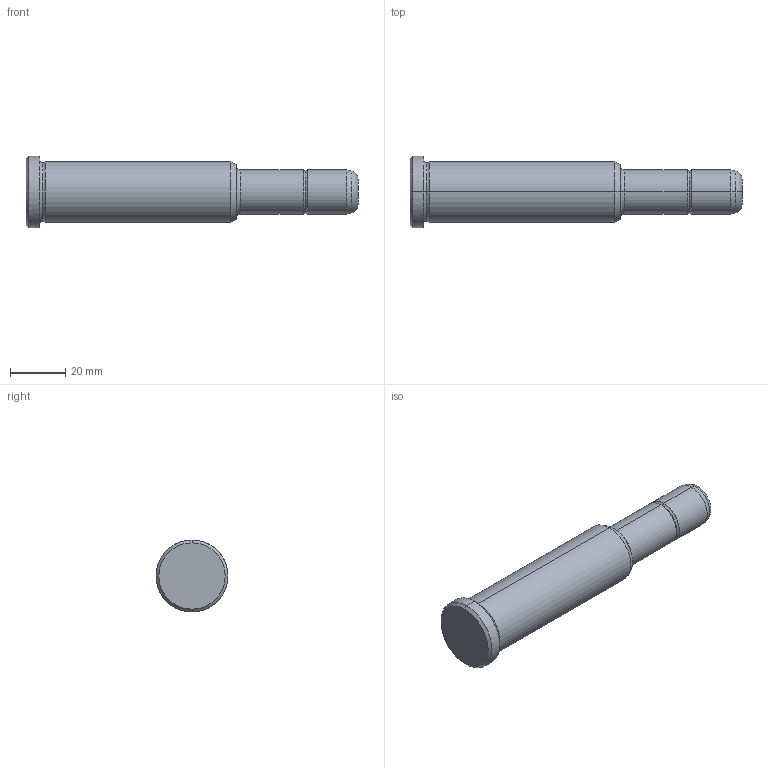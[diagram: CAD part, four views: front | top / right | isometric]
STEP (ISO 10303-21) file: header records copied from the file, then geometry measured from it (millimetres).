
FILE_DESCRIPTION(('CATIA V5 STEP Exchange'),'2;1');
FILE_NAME('C:\Users\Utente\Desktop\IO LAVORO\3D X SITO CF\X SITO\PLASTICA\351\351-16X76X120.stp','2021-08-18T12:49:25+00:00',('none'),('none'),'CATIA Version 5 Release 20 GA (IN-10)','CATIA V5 STEP AP203','none');
FILE_SCHEMA(('CONFIG_CONTROL_DESIGN'));
Length unit declared in the file: millimetre
Products named in the file (1): 351-16X76X120
Bounding box: 120 x 26 x 26 mm (x, y, z)
Volume: 38179.2 mm3; surface area: 8392.3 mm2
Topology: 1 solids, 1 shells, 30 faces, 86 edges, 60 vertices
Faces by surface type: torus 12, cylinder 8, cone 6, plane 4
Entity records: 1112 total; most frequent: CARTESIAN_POINT 289, ORIENTED_EDGE 172, DIRECTION 138, AXIS2_PLACEMENT_3D 95, EDGE_CURVE 86, CIRCLE 64, VERTEX_POINT 60, EDGE_LOOP 32
